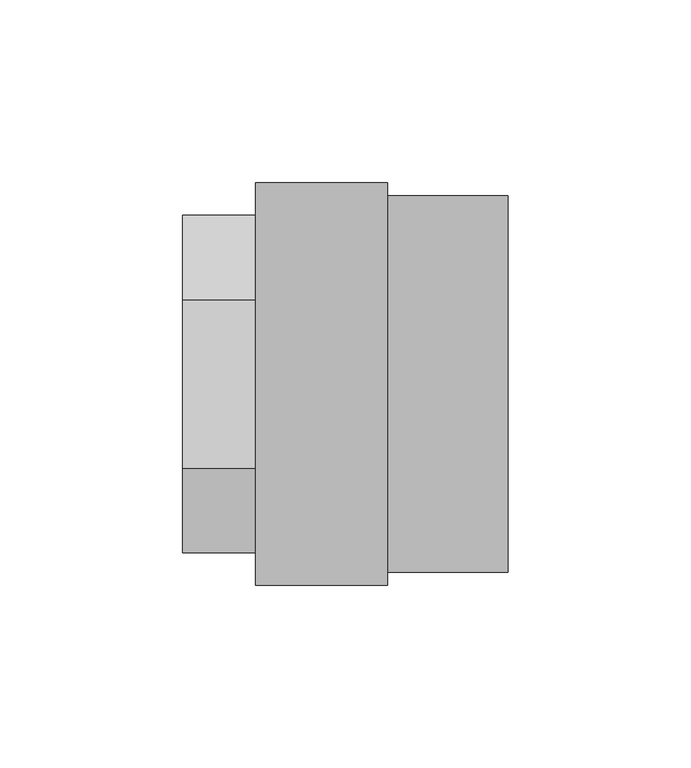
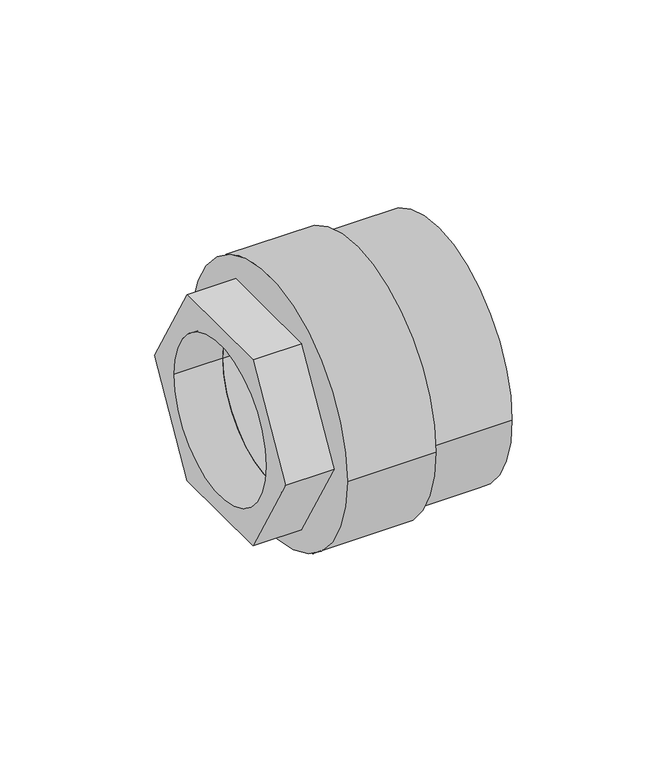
"""IFC4 building model written with IfcOpenShell, lengths in millimetres: pipe fitting geometry, NIRON RED termofusion roscado enlace rosca hembra hexagonal : Estándar."""

from ifc_helpers import new_model, si_unit, frame, origin, place, context, project, spatial, polyline, circle_curve, source, transform, mapped, element, save
from ifc_brep_helpers import plane_surface, cylinder_surface, revolved_surface, advanced_brep


def pipe_fitting_033b297d(model_context):
    return source(origin(), model_context, "Body", "AdvancedBrep", [
        advanced_brep(
        [(56.0, 55.0, 0.0), (56.0, -55.0, 0.0), (20.0, 55.0, 0.0), (20.0, -55.0, 0.0), (20.0, -32.5, 0.0), (20.0, 32.5, 0.0), (30.2, 32.5, 0.0), (30.2, -32.5, 0.0)],
        [
            (0, 1, circle_curve(frame((56.0, 0.0, 0.0), z_axis=(1.0, 0.0, 0.0), x_axis=(0.0, -1.0, 0.0)), 55.0)),
            (1, 0, circle_curve(frame((56.0, 0.0, 0.0), z_axis=(1.0, 0.0, 0.0), x_axis=(0.0, -1.0, 0.0)), 55.0)),
            (2, 3, circle_curve(frame((20.0, 0.0, 0.0), z_axis=(-1.0, 0.0, 0.0), x_axis=(0.0, -1.0, 0.0)), 55.0)),
            (3, 2, circle_curve(frame((20.0, 0.0, 0.0), z_axis=(-1.0, 0.0, 0.0), x_axis=(0.0, -1.0, 0.0)), 55.0)),
            (4, 5, circle_curve(frame((20.0, 0.0, 0.0), z_axis=(1.0, 0.0, 0.0), x_axis=(0.0, -1.0, 0.0)), 32.5)),
            (5, 4, circle_curve(frame((20.0, 0.0, 0.0), z_axis=(1.0, 0.0, 0.0), x_axis=(0.0, -1.0, 0.0)), 32.5)),
            (1, 3),
            (2, 0),
            (6, 7, circle_curve(frame((30.2, 0.0, 0.0), z_axis=(-1.0, 0.0, 0.0), x_axis=(0.0, -1.0, 0.0)), 32.5)),
            (7, 6, circle_curve(frame((30.2, 0.0, 0.0), z_axis=(-1.0, 0.0, 0.0), x_axis=(0.0, -1.0, 0.0)), 32.5)),
            (6, 5),
            (4, 7),
        ],
        [
            plane_surface(frame((56.0, -55.0, 0.0), z_axis=(1.0, 0.0, 0.0), x_axis=(0.0, 0.0, -1.0))),
            plane_surface(frame((20.0, -55.0, 0.0), z_axis=(-1.0, 0.0, 0.0), x_axis=(0.0, 0.0, 1.0))),
            cylinder_surface(frame((56.0, 0.0, 0.0), z_axis=(-1.0, 0.0, 0.0), x_axis=(0.0, -1.0, 0.0)), 55.0),
            plane_surface(frame((30.2, -32.5, 0.0), z_axis=(-1.0, 0.0, 0.0), x_axis=(0.0, 0.0, -1.0))),
            revolved_surface(polyline([(20.0, -32.5, 0.0), (30.2, -32.5, 0.0)]), (30.2, 0.0, 0.0), (-1.0, 0.0, 0.0)),
        ],
        [
            (0, [[1, 2]]),
            (1, [[3, 4], [5, 6]]),
            (2, [[-2, 7, -3, 8]]),
            (2, [[-1, -8, -4, -7]]),
            (3, [[9, 10]]),
            (4, [[-9, 11, -5, 12]]),
            (4, [[-10, -12, -6, -11]]),
        ],
    ),
        advanced_brep(
        [(20.0, 51.5, 0.0), (20.0, -51.5, 0.0), (20.0, -32.5, 0.0), (20.0, 32.5, 0.0), (89.0, 51.5, 0.0), (89.0, -51.5, 0.0), (30.2, 32.5, 0.0), (30.2, -32.5, 0.0)],
        [
            (0, 1, circle_curve(frame((20.0, 0.0, 0.0), z_axis=(-1.0, 0.0, 0.0), x_axis=(0.0, -1.0, 0.0)), 51.5)),
            (1, 0, circle_curve(frame((20.0, 0.0, 0.0), z_axis=(-1.0, 0.0, 0.0), x_axis=(0.0, -1.0, 0.0)), 51.5)),
            (2, 3, circle_curve(frame((20.0, 0.0, 0.0), z_axis=(1.0, 0.0, 0.0), x_axis=(0.0, -1.0, 0.0)), 32.5)),
            (3, 2, circle_curve(frame((20.0, 0.0, 0.0), z_axis=(1.0, 0.0, 0.0), x_axis=(0.0, -1.0, 0.0)), 32.5)),
            (4, 5, circle_curve(frame((89.0, 0.0, 0.0), z_axis=(1.0, 0.0, 0.0), x_axis=(0.0, -1.0, 0.0)), 51.5)),
            (5, 4, circle_curve(frame((89.0, 0.0, 0.0), z_axis=(1.0, 0.0, 0.0), x_axis=(0.0, -1.0, 0.0)), 51.5)),
            (0, 4),
            (5, 1),
            (6, 7, circle_curve(frame((30.2, 0.0, 0.0), z_axis=(-1.0, 0.0, 0.0), x_axis=(0.0, -1.0, 0.0)), 32.5)),
            (7, 6, circle_curve(frame((30.2, 0.0, 0.0), z_axis=(-1.0, 0.0, 0.0), x_axis=(0.0, -1.0, 0.0)), 32.5)),
            (6, 3),
            (2, 7),
        ],
        [
            plane_surface(frame((20.0, -51.5, 0.0), z_axis=(-1.0, 0.0, 0.0), x_axis=(0.0, 0.0, 1.0))),
            plane_surface(frame((89.0, -51.5, 0.0), z_axis=(1.0, 0.0, 0.0), x_axis=(0.0, 0.0, -1.0))),
            cylinder_surface(frame((89.0, 0.0, 0.0), z_axis=(-1.0, 0.0, 0.0), x_axis=(0.0, -1.0, 0.0)), 51.5),
            plane_surface(frame((30.2, -32.5, 0.0), z_axis=(-1.0, 0.0, 0.0), x_axis=(0.0, 0.0, -1.0))),
            revolved_surface(polyline([(20.0, -32.5, 0.0), (30.2, -32.5, 0.0)]), (30.2, 0.0, 0.0), (-1.0, 0.0, 0.0)),
        ],
        [
            (0, [[1, 2], [3, 4]]),
            (1, [[5, 6]]),
            (2, [[-1, 7, -6, 8]]),
            (2, [[-2, -8, -5, -7]]),
            (3, [[9, 10]]),
            (4, [[-9, 11, -3, 12]]),
            (4, [[-10, -12, -4, -11]]),
        ],
    ),
        advanced_brep(
        [(45.0, -23.0940108, -40.0), (45.0, 23.0940108, -40.0), (45.0, 46.1880215, 0.0), (45.0, 23.0940108, 40.0), (45.0, -23.0940108, 40.0), (45.0, -46.1880215, 0.0), (0.0, -23.0940108, -40.0), (0.0, -46.1880215, 0.0), (0.0, -23.0940108, 40.0), (0.0, 23.0940108, 40.0), (0.0, 46.1880215, 0.0), (0.0, 23.0940108, -40.0), (0.0, -32.5, 0.0), (0.0, 32.5, 0.0), (30.2, 32.5, 0.0), (30.2, -32.5, 0.0)],
        [
            (0, 1),
            (1, 2),
            (2, 3),
            (3, 4),
            (4, 5),
            (5, 0),
            (6, 7),
            (7, 8),
            (8, 9),
            (9, 10),
            (10, 11),
            (11, 6),
            (12, 13, circle_curve(frame((0.0, 0.0, 0.0), z_axis=(1.0, 0.0, 0.0), x_axis=(0.0, -1.0, 0.0)), 32.5)),
            (13, 12, circle_curve(frame((0.0, 0.0, 0.0), z_axis=(1.0, 0.0, 0.0), x_axis=(0.0, -1.0, 0.0)), 32.5)),
            (0, 6),
            (11, 1),
            (10, 2),
            (9, 3),
            (8, 4),
            (7, 5),
            (14, 15, circle_curve(frame((30.2, 0.0, 0.0), z_axis=(-1.0, 0.0, 0.0), x_axis=(0.0, -1.0, 0.0)), 32.5)),
            (15, 14, circle_curve(frame((30.2, 0.0, 0.0), z_axis=(-1.0, 0.0, 0.0), x_axis=(0.0, -1.0, 0.0)), 32.5)),
            (14, 13),
            (12, 15),
        ],
        [
            plane_surface(frame((45.0, 0.0, 0.0), z_axis=(1.0, 0.0, 0.0), x_axis=(0.0, 0.0, 1.0))),
            plane_surface(frame((0.0, 0.0, 0.0), z_axis=(-1.0, 0.0, 0.0), x_axis=(0.0, 0.0, 1.0))),
            plane_surface(frame((45.0, -23.0940108, -40.0), z_axis=(0.0, 0.0, -1.0), x_axis=(-1.0, 0.0, 0.0))),
            plane_surface(frame((45.0, 23.0940108, -40.0), z_axis=(0.0, 0.8660254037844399, -0.49999999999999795), x_axis=(-1.0, 0.0, 0.0))),
            plane_surface(frame((45.0, 46.1880215, 0.0), z_axis=(0.0, 0.8660254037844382, 0.500000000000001), x_axis=(-1.0, 0.0, 0.0))),
            plane_surface(frame((45.0, 23.0940108, 40.0), z_axis=(0.0, 0.0, 1.0), x_axis=(-1.0, 0.0, 0.0))),
            plane_surface(frame((45.0, -23.0940108, 40.0), z_axis=(0.0, -0.8660254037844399, 0.49999999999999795), x_axis=(-1.0, 0.0, 0.0))),
            plane_surface(frame((45.0, -46.1880215, 0.0), z_axis=(0.0, -0.8660254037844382, -0.500000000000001), x_axis=(-1.0, 0.0, 0.0))),
            plane_surface(frame((30.2, -32.5, 0.0), z_axis=(-1.0, 0.0, 0.0), x_axis=(0.0, 0.0, -1.0))),
            revolved_surface(polyline([(0.0, -32.5, 0.0), (30.2, -32.5, 0.0)]), (30.2, 0.0, 0.0), (-1.0, 0.0, 0.0)),
        ],
        [
            (0, [[1, 2, 3, 4, 5, 6]]),
            (1, [[7, 8, 9, 10, 11, 12], [13, 14]]),
            (2, [[-1, 15, -12, 16]]),
            (3, [[-2, -16, -11, 17]]),
            (4, [[-3, -17, -10, 18]]),
            (5, [[-4, -18, -9, 19]]),
            (6, [[-5, -19, -8, 20]]),
            (7, [[-6, -20, -7, -15]]),
            (8, [[21, 22]]),
            (9, [[-21, 23, -13, 24]]),
            (9, [[-22, -24, -14, -23]]),
        ],
    ),
    ])


if __name__ == "__main__":
    model = new_model("IFC4")
    model_context = context("Model", 3, world=origin())
    ifc_project = project(units=[si_unit("LENGTHUNIT", "METRE", prefix="MILLI")], contexts=[model_context])
    site = spatial("IfcSite", under=ifc_project)
    building = spatial("IfcBuilding", under=site)
    placement = place(None, origin())
    pipe_fitting_shape = pipe_fitting_033b297d(model_context)
    element("IfcPipeFitting", 1, ObjectType="NIRON RED termofusion roscado enlace rosca hembra hexagonal : Estándar", at=placement, inside=building, context=model_context, shape_type="MappedRepresentation", body=[
        mapped(pipe_fitting_shape, transform((0.0, 0.0, 0.0), x_axis=(1.0, 0.0, 0.0), y_axis=(0.0, 1.0, 0.0), z_axis=(0.0, 0.0, 1.0))),
    ])
    save(model, "model.ifc")
